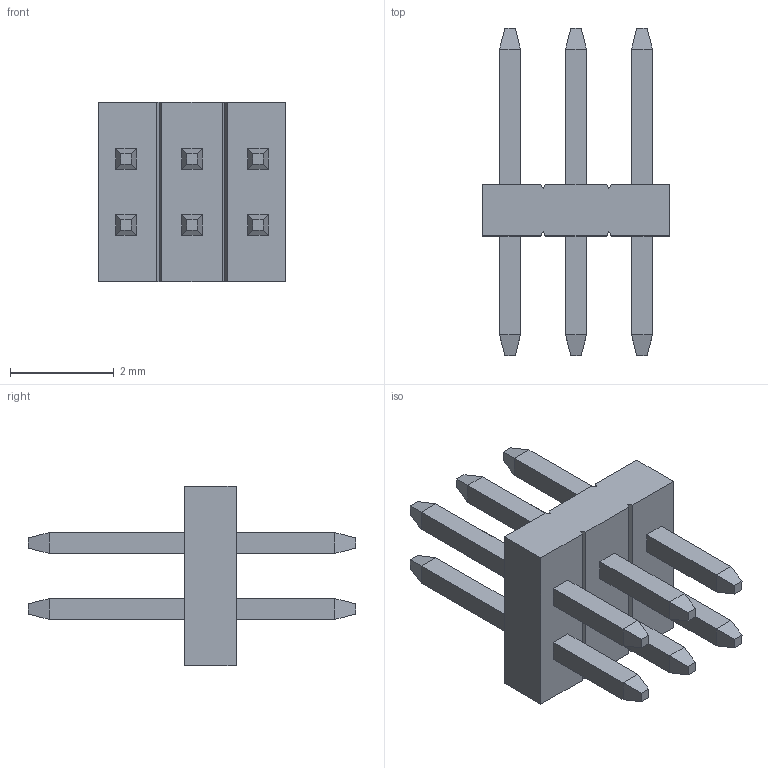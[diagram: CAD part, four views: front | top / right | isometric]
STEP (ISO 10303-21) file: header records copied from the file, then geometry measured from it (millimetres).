
FILE_DESCRIPTION (( 'STEP AP214' ), '1' );
FILE_NAME ('2215-2X03G00S-2.3-3B.STEP', '2017-02-02T01:11:03', ( 'RD05' ), ( '' ), 'SwSTEP 2.0', 'SolidWorks 2011', '' );
FILE_SCHEMA (( 'AUTOMOTIVE_DESIGN' ));
Length unit declared in the file: millimetre
Products named in the file (3): Housing; Pin; 2215-2X03G00S-2.3-3B
Assembly tree (7 placements, depth 2):
  2215-2X03G00S-2.3-3B
    Pin  x6
    Housing
Bounding box: 3.61 x 6.3 x 3.45 mm (x, y, z)
Volume: 17.2 mm3; surface area: 91.9 mm2
Topology: 13 solids, 13 shells, 138 faces, 288 edges, 176 vertices
Faces by surface type: plane 138
Entity records: 1625 total; most frequent: CARTESIAN_POINT 192, DIRECTION 184, ORIENTED_EDGE 176, EDGE_CURVE 88, LINE 88, VECTOR 88, VERTEX_POINT 56, AXIS2_PLACEMENT_3D 48
